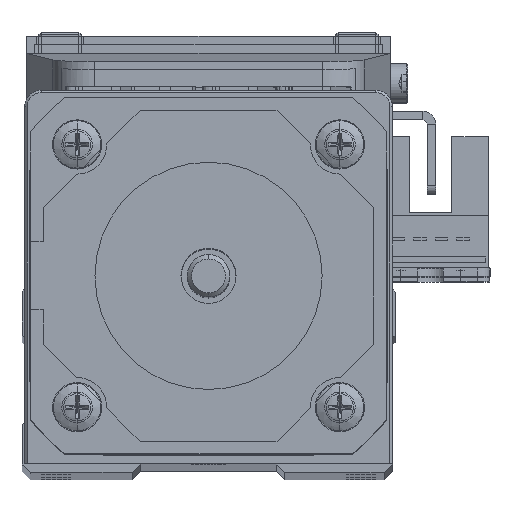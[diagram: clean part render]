
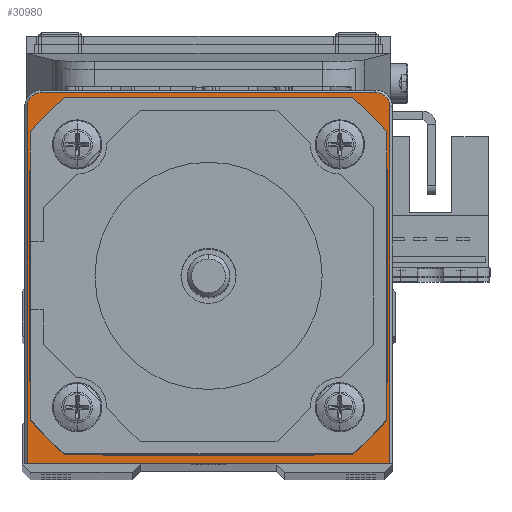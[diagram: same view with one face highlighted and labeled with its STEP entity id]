
A CAD part, top view. The second image highlights one B-rep face of the part: STEP entity #30980.
In plain terms, the highlighted planar face has unit normal (0, 0, 1).
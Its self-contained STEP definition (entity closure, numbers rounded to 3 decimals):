
#2115 = EDGE_CURVE ( 'NONE', #32173, #31754, #59844, .T. ) ;
#4097 = EDGE_CURVE ( 'NONE', #16152, #6415, #59755, .T. ) ;
#5182 = DIRECTION ( 'NONE',  ( 0., 0., 1. ) ) ;
#6243 = CARTESIAN_POINT ( 'NONE',  ( 21.4, 20., 26.5 ) ) ;
#6415 = VERTEX_POINT ( 'NONE', #40569 ) ;
#7240 = EDGE_CURVE ( 'NONE', #56783, #71064, #58636, .T. ) ;
#7461 = CARTESIAN_POINT ( 'NONE',  ( -21.4, -22., 26.5 ) ) ;
#7986 = ORIENTED_EDGE ( 'NONE', *, *, #69360, .F. ) ;
#8676 = CARTESIAN_POINT ( 'NONE',  ( 0., 0., 26.5 ) ) ;
#9408 = DIRECTION ( 'NONE',  ( 1., 0., 0. ) ) ;
#10152 = DIRECTION ( 'NONE',  ( 0., 0., 1. ) ) ;
#10775 = DIRECTION ( 'NONE',  ( 1., 0., 0. ) ) ;
#12360 = ORIENTED_EDGE ( 'NONE', *, *, #33700, .T. ) ;
#13292 = CARTESIAN_POINT ( 'NONE',  ( -21.4, -22., 26.5 ) ) ;
#13570 = DIRECTION ( 'NONE',  ( 1., 0., 0. ) ) ;
#14057 = EDGE_LOOP ( 'NONE', ( #43162, #7986 ) ) ;
#16152 = VERTEX_POINT ( 'NONE', #24362 ) ;
#19147 = VECTOR ( 'NONE', #30777, 1000. ) ;
#19333 = PLANE ( 'NONE',  #52284 ) ;
#19612 = AXIS2_PLACEMENT_3D ( 'NONE', #62534, #10152, #33452 ) ;
#23020 = CIRCLE ( 'NONE', #75505, 10. ) ;
#24362 = CARTESIAN_POINT ( 'NONE',  ( -10., 0., 26.5 ) ) ;
#24849 = LINE ( 'NONE', #42444, #48582 ) ;
#26804 = AXIS2_PLACEMENT_3D ( 'NONE', #8676, #31982, #55306 ) ;
#28506 = DIRECTION ( 'NONE',  ( 1., 0., 0. ) ) ;
#29569 = DIRECTION ( 'NONE',  ( 0., 1., 0. ) ) ;
#30757 = CARTESIAN_POINT ( 'NONE',  ( 21.4, 20., 26.5 ) ) ;
#30777 = DIRECTION ( 'NONE',  ( 0., -1., 0. ) ) ;
#30980 = ADVANCED_FACE ( 'NONE', ( #48351, #71689 ), #19333, .T. ) ;
#31140 = VECTOR ( 'NONE', #29569, 1000. ) ;
#31754 = VERTEX_POINT ( 'NONE', #13292 ) ;
#31982 = DIRECTION ( 'NONE',  ( 0., 0., 1. ) ) ;
#32173 = VERTEX_POINT ( 'NONE', #70942 ) ;
#32901 = CARTESIAN_POINT ( 'NONE',  ( 19.7, 21.7, 26.5 ) ) ;
#33452 = DIRECTION ( 'NONE',  ( 1., 0., 0. ) ) ;
#33700 = EDGE_CURVE ( 'NONE', #71064, #44967, #70337, .T. ) ;
#34006 = ORIENTED_EDGE ( 'NONE', *, *, #50310, .T. ) ;
#36108 = EDGE_CURVE ( 'NONE', #44967, #53968, #24849, .T. ) ;
#37385 = AXIS2_PLACEMENT_3D ( 'NONE', #38452, #61766, #9408 ) ;
#38452 = CARTESIAN_POINT ( 'NONE',  ( 19.7, 20., 26.5 ) ) ;
#38582 = VECTOR ( 'NONE', #10775, 1000. ) ;
#39815 = LINE ( 'NONE', #63132, #38582 ) ;
#40569 = CARTESIAN_POINT ( 'NONE',  ( 10., 0., 26.5 ) ) ;
#42444 = CARTESIAN_POINT ( 'NONE',  ( -19.7, 21.7, 26.5 ) ) ;
#42652 = CARTESIAN_POINT ( 'NONE',  ( 0., 0., 26.5 ) ) ;
#42805 = CIRCLE ( 'NONE', #19612, 1.7 ) ;
#43162 = ORIENTED_EDGE ( 'NONE', *, *, #4097, .F. ) ;
#44967 = VERTEX_POINT ( 'NONE', #32901 ) ;
#45424 = ORIENTED_EDGE ( 'NONE', *, *, #36108, .T. ) ;
#48351 = FACE_OUTER_BOUND ( 'NONE', #53462, .T. ) ;
#48582 = VECTOR ( 'NONE', #65742, 1000. ) ;
#50310 = EDGE_CURVE ( 'NONE', #31754, #56783, #39815, .T. ) ;
#50663 = ORIENTED_EDGE ( 'NONE', *, *, #7240, .T. ) ;
#52284 = AXIS2_PLACEMENT_3D ( 'NONE', #42652, #65943, #13570 ) ;
#53462 = EDGE_LOOP ( 'NONE', ( #34006, #50663, #12360, #45424, #71519, #63341 ) ) ;
#53968 = VERTEX_POINT ( 'NONE', #59619 ) ;
#54681 = EDGE_CURVE ( 'NONE', #53968, #32173, #42805, .T. ) ;
#55306 = DIRECTION ( 'NONE',  ( 1., 0., 0. ) ) ;
#56783 = VERTEX_POINT ( 'NONE', #68491 ) ;
#57568 = CARTESIAN_POINT ( 'NONE',  ( 0., 0., 26.5 ) ) ;
#58636 = LINE ( 'NONE', #6243, #31140 ) ;
#59619 = CARTESIAN_POINT ( 'NONE',  ( -19.7, 21.7, 26.5 ) ) ;
#59755 = CIRCLE ( 'NONE', #26804, 10. ) ;
#59844 = LINE ( 'NONE', #7461, #19147 ) ;
#61766 = DIRECTION ( 'NONE',  ( 0., 0., 1. ) ) ;
#62534 = CARTESIAN_POINT ( 'NONE',  ( -19.7, 20., 26.5 ) ) ;
#63132 = CARTESIAN_POINT ( 'NONE',  ( -21.7, -22., 26.5 ) ) ;
#63341 = ORIENTED_EDGE ( 'NONE', *, *, #2115, .T. ) ;
#65742 = DIRECTION ( 'NONE',  ( -1., 0., 0. ) ) ;
#65943 = DIRECTION ( 'NONE',  ( 0., 0., 1. ) ) ;
#68491 = CARTESIAN_POINT ( 'NONE',  ( 21.4, -22., 26.5 ) ) ;
#69360 = EDGE_CURVE ( 'NONE', #6415, #16152, #23020, .T. ) ;
#70337 = CIRCLE ( 'NONE', #37385, 1.7 ) ;
#70942 = CARTESIAN_POINT ( 'NONE',  ( -21.4, 20., 26.5 ) ) ;
#71064 = VERTEX_POINT ( 'NONE', #30757 ) ;
#71519 = ORIENTED_EDGE ( 'NONE', *, *, #54681, .T. ) ;
#71689 = FACE_BOUND ( 'NONE', #14057, .T. ) ;
#75505 = AXIS2_PLACEMENT_3D ( 'NONE', #57568, #5182, #28506 ) ;
